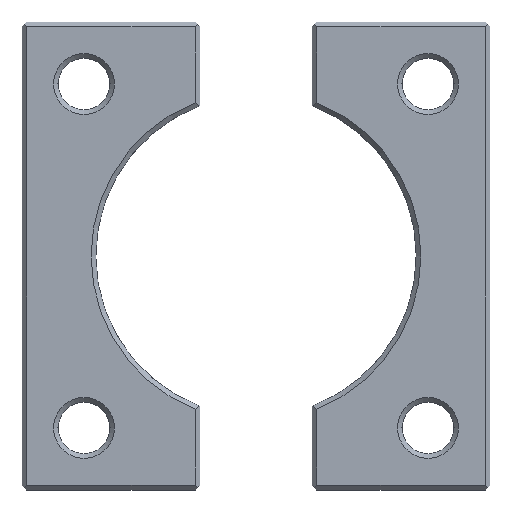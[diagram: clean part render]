
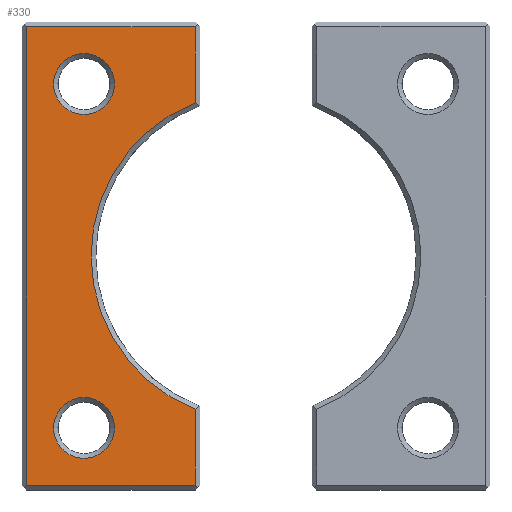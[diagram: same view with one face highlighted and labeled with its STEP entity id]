
A CAD part, top view. The second image highlights one B-rep face of the part: STEP entity #330.
In plain terms, the highlighted planar face has unit normal (0, 0, 1).
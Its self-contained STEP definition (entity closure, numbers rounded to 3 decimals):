
#177=CARTESIAN_POINT('Vertex',(-13.,32.765,12.)) ;
#180=CARTESIAN_POINT('Axis2P3D Location',(0.,0.,12.)) ;
#184=CARTESIAN_POINT('Vertex',(-13.,-32.765,12.)) ;
#209=CARTESIAN_POINT('Vertex',(-30.25,-36.75,12.)) ;
#225=CARTESIAN_POINT('Vertex',(-43.25,-36.75,12.)) ;
#228=CARTESIAN_POINT('Axis2P3D Location',(-36.75,-36.75,12.)) ;
#250=CARTESIAN_POINT('Axis2P3D Location',(-36.75,-36.75,12.)) ;
#262=CARTESIAN_POINT('Axis2P3D Location',(0.,0.,12.)) ;
#267=CARTESIAN_POINT('Line Origine',(-49.,0.,12.)) ;
#271=CARTESIAN_POINT('Vertex',(-49.,-49.,12.)) ;
#273=CARTESIAN_POINT('Vertex',(-49.,49.,12.)) ;
#276=CARTESIAN_POINT('Line Origine',(-31.,-49.,12.)) ;
#280=CARTESIAN_POINT('Vertex',(-13.,-49.,12.)) ;
#283=CARTESIAN_POINT('Line Origine',(-13.,-40.883,12.)) ;
#288=CARTESIAN_POINT('Line Origine',(-13.,40.883,12.)) ;
#292=CARTESIAN_POINT('Vertex',(-13.,49.,12.)) ;
#295=CARTESIAN_POINT('Line Origine',(-31.,49.,12.)) ;
#308=CARTESIAN_POINT('Axis2P3D Location',(-36.75,36.75,12.)) ;
#312=CARTESIAN_POINT('Vertex',(-43.25,36.75,12.)) ;
#314=CARTESIAN_POINT('Vertex',(-30.25,36.75,12.)) ;
#317=CARTESIAN_POINT('Axis2P3D Location',(-36.75,36.75,12.)) ;
#181=DIRECTION('Axis2P3D Direction',(0.,0.,1.)) ;
#229=DIRECTION('Axis2P3D Direction',(0.,0.,1.)) ;
#251=DIRECTION('Axis2P3D Direction',(0.,0.,1.)) ;
#263=DIRECTION('Axis2P3D Direction',(0.,0.,1.)) ;
#264=DIRECTION('Axis2P3D XDirection',(1.,0.,0.)) ;
#268=DIRECTION('Vector Direction',(0.,-1.,0.)) ;
#277=DIRECTION('Vector Direction',(1.,0.,0.)) ;
#284=DIRECTION('Vector Direction',(0.,1.,0.)) ;
#289=DIRECTION('Vector Direction',(0.,1.,0.)) ;
#296=DIRECTION('Vector Direction',(-1.,0.,0.)) ;
#309=DIRECTION('Axis2P3D Direction',(0.,0.,1.)) ;
#318=DIRECTION('Axis2P3D Direction',(0.,0.,1.)) ;
#182=AXIS2_PLACEMENT_3D('Circle Axis2P3D',#180,#181,$) ;
#230=AXIS2_PLACEMENT_3D('Circle Axis2P3D',#228,#229,$) ;
#252=AXIS2_PLACEMENT_3D('Circle Axis2P3D',#250,#251,$) ;
#265=AXIS2_PLACEMENT_3D('Plane Axis2P3D',#262,#263,#264) ;
#310=AXIS2_PLACEMENT_3D('Circle Axis2P3D',#308,#309,$) ;
#319=AXIS2_PLACEMENT_3D('Circle Axis2P3D',#317,#318,$) ;
#301=ORIENTED_EDGE('',*,*,#275,.F.) ;
#302=ORIENTED_EDGE('',*,*,#282,.F.) ;
#303=ORIENTED_EDGE('',*,*,#287,.F.) ;
#304=ORIENTED_EDGE('',*,*,#186,.F.) ;
#305=ORIENTED_EDGE('',*,*,#294,.F.) ;
#306=ORIENTED_EDGE('',*,*,#299,.F.) ;
#323=ORIENTED_EDGE('',*,*,#316,.T.) ;
#324=ORIENTED_EDGE('',*,*,#321,.T.) ;
#327=ORIENTED_EDGE('',*,*,#254,.T.) ;
#328=ORIENTED_EDGE('',*,*,#232,.T.) ;
#325=FACE_BOUND('',#322,.T.) ;
#329=FACE_BOUND('',#326,.T.) ;
#269=VECTOR('Line Direction',#268,1.) ;
#278=VECTOR('Line Direction',#277,1.) ;
#285=VECTOR('Line Direction',#284,1.) ;
#290=VECTOR('Line Direction',#289,1.) ;
#297=VECTOR('Line Direction',#296,1.) ;
#330=ADVANCED_FACE('',(#307,#325,#329),#266,.T.) ;
#183=CIRCLE('generated circle',#182,35.25) ;
#231=CIRCLE('generated circle',#230,6.5) ;
#253=CIRCLE('generated circle',#252,6.5) ;
#311=CIRCLE('generated circle',#310,6.5) ;
#320=CIRCLE('generated circle',#319,6.5) ;
#186=EDGE_CURVE('',#178,#185,#183,.T.) ;
#232=EDGE_CURVE('',#210,#226,#231,.F.) ;
#254=EDGE_CURVE('',#226,#210,#253,.F.) ;
#275=EDGE_CURVE('',#272,#274,#270,.F.) ;
#282=EDGE_CURVE('',#281,#272,#279,.F.) ;
#287=EDGE_CURVE('',#185,#281,#286,.F.) ;
#294=EDGE_CURVE('',#293,#178,#291,.F.) ;
#299=EDGE_CURVE('',#274,#293,#298,.F.) ;
#316=EDGE_CURVE('',#313,#315,#311,.F.) ;
#321=EDGE_CURVE('',#315,#313,#320,.F.) ;
#300=EDGE_LOOP('',(#301,#302,#303,#304,#305,#306)) ;
#322=EDGE_LOOP('',(#323,#324)) ;
#326=EDGE_LOOP('',(#327,#328)) ;
#307=FACE_OUTER_BOUND('',#300,.T.) ;
#270=LINE('Line',#267,#269) ;
#279=LINE('Line',#276,#278) ;
#286=LINE('Line',#283,#285) ;
#291=LINE('Line',#288,#290) ;
#298=LINE('Line',#295,#297) ;
#266=PLANE('Plane',#265) ;
#178=VERTEX_POINT('',#177) ;
#185=VERTEX_POINT('',#184) ;
#210=VERTEX_POINT('',#209) ;
#226=VERTEX_POINT('',#225) ;
#272=VERTEX_POINT('',#271) ;
#274=VERTEX_POINT('',#273) ;
#281=VERTEX_POINT('',#280) ;
#293=VERTEX_POINT('',#292) ;
#313=VERTEX_POINT('',#312) ;
#315=VERTEX_POINT('',#314) ;
